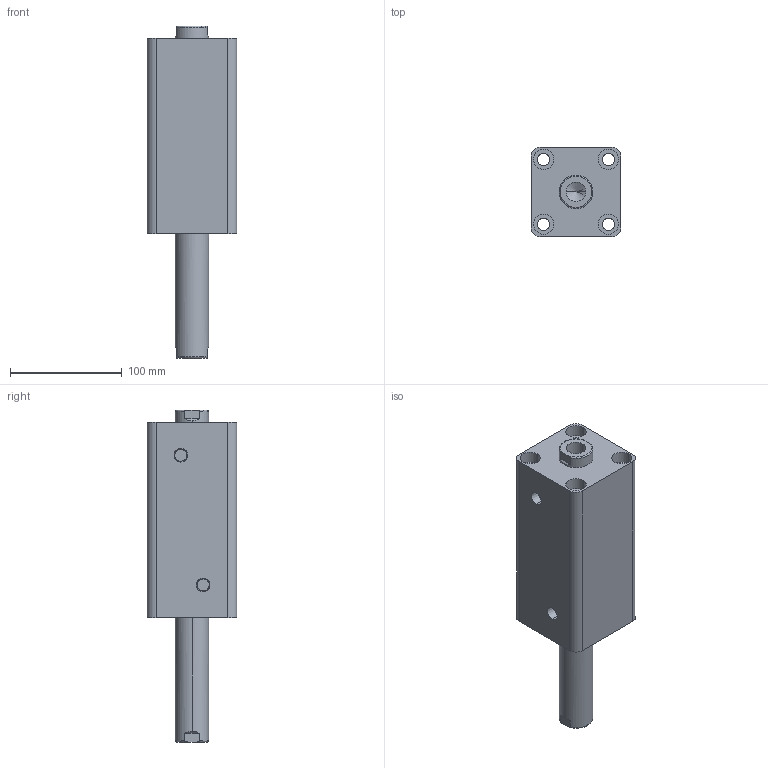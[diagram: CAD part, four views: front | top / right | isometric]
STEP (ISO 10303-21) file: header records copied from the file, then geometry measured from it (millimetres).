
FILE_DESCRIPTION (( 'STEP AP203' ), '1' );
FILE_NAME ('HTB-SW50-100N.STEP', '2019-10-07T09:26:35', ( '微软用户' ), ( '微软中国' ), 'SwSTEP 2.0', 'SolidWorks 2012', '' );
FILE_SCHEMA (( 'CONFIG_CONTROL_DESIGN' ));
Length unit declared in the file: millimetre
Products named in the file (3): HTB-SW50-100N; HTB-SW50-100N活塞杆; HTB-SW50-100掛极
Assembly tree (2 placements, depth 2):
  HTB-SW50-100N
    HTB-SW50-100掛极
    HTB-SW50-100N活塞杆
Bounding box: 80 x 80 x 297 mm (x, y, z)
Volume: 975026 mm3; surface area: 153482 mm2
Topology: 2 solids, 2 shells, 100 faces, 228 edges, 146 vertices
Faces by surface type: cylinder 48, plane 32, torus 12, cone 8
Entity records: 3237 total; most frequent: CARTESIAN_POINT 595, DIRECTION 542, ORIENTED_EDGE 448, AXIS2_PLACEMENT_3D 229, EDGE_CURVE 224, VERTEX_POINT 146, EDGE_LOOP 128, CIRCLE 124
